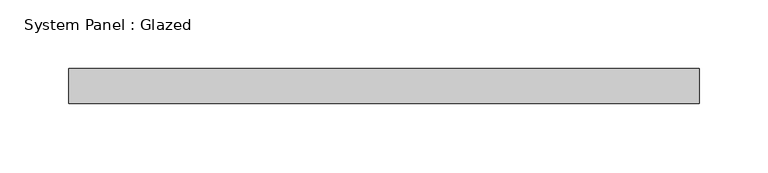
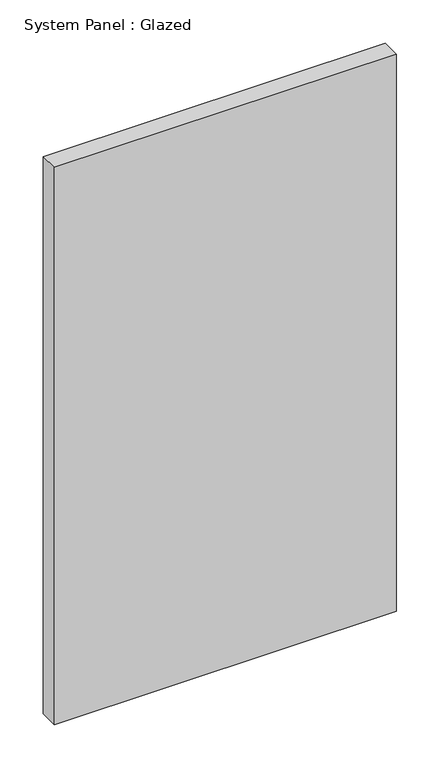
"""IFC4 building model written with IfcOpenShell, lengths in millimetres: plate geometry, System Panel : Glazed."""

from ifc_helpers import new_model, si_unit, origin, origin_with_axes, place, context, project, spatial, polyline, outline, extrude, source, transform, mapped, element, save


def system_panel_glazed_5b288161(model_context):
    return source(origin(), model_context, "Body", "SweptSolid", [
        extrude(outline(polyline([(228.5999998, 19.05), (-228.5999998, 19.05), (-228.5999998, 44.45), (228.5999998, 44.45), (228.5999998, 19.05)])), origin_with_axes(), (0.0, 0.0, 1.0), 787.4),
    ])


if __name__ == "__main__":
    model = new_model("IFC4")
    model_context = context("Model", 3, world=origin())
    ifc_project = project(units=[si_unit("LENGTHUNIT", "METRE", prefix="MILLI")], contexts=[model_context])
    site = spatial("IfcSite", under=ifc_project)
    building = spatial("IfcBuilding", under=site)
    placement = place(None, origin())
    system_panel_glazed_shape = system_panel_glazed_5b288161(model_context)
    element("IfcPlate", 1, ObjectType="System Panel : Glazed", at=placement, inside=building, context=model_context, shape_type="MappedRepresentation", body=[
        mapped(system_panel_glazed_shape, transform((0.0, 0.0, 0.0), x_axis=(1.0, 0.0, 0.0), y_axis=(0.0, 1.0, 0.0), z_axis=(0.0, 0.0, 1.0))),
    ])
    save(model, "model.ifc")
